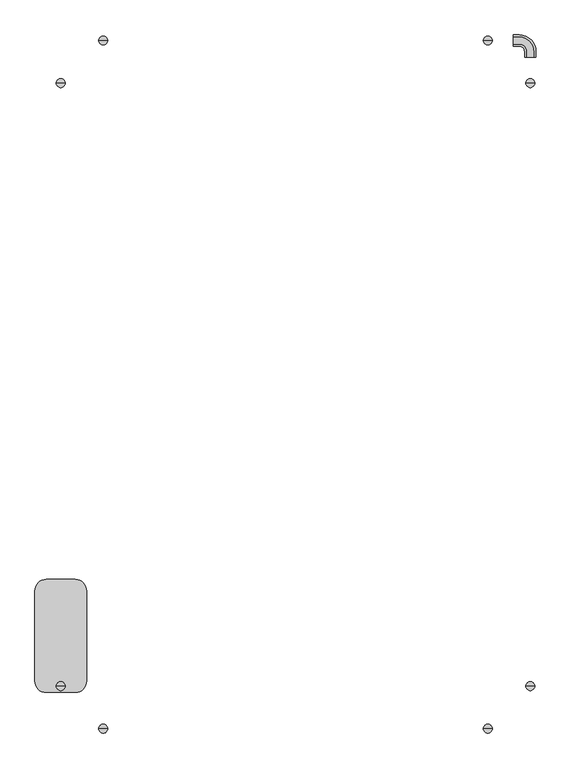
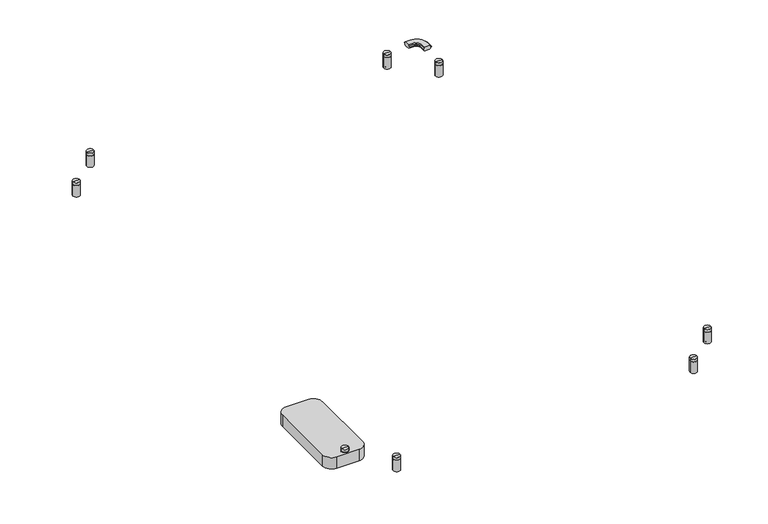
"""IFC4 building model written with IfcOpenShell, lengths in millimetres: light fixture geometry, ARTEMIDE-AoL-StandAlone-SquareRectangular_WallCeiling : StandALone_WallCeiling_SquareRectangular-1321x1911mm 11754lm 3000K."""

from ifc_helpers import new_model, si_unit, point, frame, frame_2d, origin, origin_with_axes, place, context, project, spatial, polyline, circle_curve, ellipse_curve, trimmed, segment, composite_curve, outline, extrude, source, transform, mapped, element, save
from ifc_brep_helpers import plane_surface, cylinder_surface, revolved_surface, advanced_brep


def light_fixture_8e3b3e56(model_context):
    return source(origin(), model_context, "Body", "SolidModel", [
        advanced_brep(
        [(152.0, 1746.0, 1.0), (128.0, 1746.0, 1.0), (134.5, 1746.0, 1.0), (145.5, 1746.0, 1.0), (152.0, 1746.0, 42.5), (128.0, 1746.0, 42.5), (149.5243756, 1746.0, 42.5), (130.4756244, 1746.0, 42.5), (149.5243756, 1746.0, 43.4995055), (130.4756244, 1746.0, 43.4995055), (152.0, 1746.0, 43.4995055), (128.0, 1746.0, 43.4995055), (152.0, 1746.0, 52.9579379), (128.0, 1746.0, 52.9579379), (140.0, 1746.0, 52.9579379), (145.5, 1746.0, 0.0), (134.5, 1746.0, 0.0), (140.0, 1746.0, 0.0)],
        [
            (0, 1, circle_curve(frame((140.0, 1746.0, 1.0), z_axis=(0.0, 0.0, -1.0), x_axis=(-1.0, 0.0, 0.0)), 12.0)),
            (1, 2),
            (2, 3, circle_curve(frame((140.0, 1746.0, 1.0), z_axis=(0.0, 0.0, 1.0), x_axis=(-1.0, 0.0, 0.0)), 5.5)),
            (3, 0),
            (1, 0, circle_curve(frame((140.0, 1746.0, 1.0), z_axis=(0.0, 0.0, -1.0), x_axis=(-1.0, 0.0, 0.0)), 12.0)),
            (3, 2, circle_curve(frame((140.0, 1746.0, 1.0), z_axis=(0.0, 0.0, 1.0), x_axis=(-1.0, 0.0, 0.0)), 5.5)),
            (4, 5, circle_curve(frame((140.0, 1746.0, 42.5), z_axis=(0.0, 0.0, -1.0), x_axis=(-1.0, 0.0, 0.0)), 12.0)),
            (5, 1),
            (0, 4),
            (5, 4, circle_curve(frame((140.0, 1746.0, 42.5), z_axis=(0.0, 0.0, -1.0), x_axis=(-1.0, 0.0, 0.0)), 12.0)),
            (6, 7, circle_curve(frame((140.0, 1746.0, 42.5), z_axis=(0.0, 0.0, -1.0), x_axis=(-1.0, 0.0, 0.0)), 9.5243756)),
            (7, 5),
            (4, 6),
            (7, 6, circle_curve(frame((140.0, 1746.0, 42.5), z_axis=(0.0, 0.0, -1.0), x_axis=(-1.0, 0.0, 0.0)), 9.5243756)),
            (8, 9, circle_curve(frame((140.0, 1746.0, 43.4995055), z_axis=(0.0, 0.0, -1.0), x_axis=(-1.0, 0.0, 0.0)), 9.5243756)),
            (9, 7),
            (6, 8),
            (9, 8, circle_curve(frame((140.0, 1746.0, 43.4995055), z_axis=(0.0, 0.0, -1.0), x_axis=(-1.0, 0.0, 0.0)), 9.5243756)),
            (10, 11, circle_curve(frame((140.0, 1746.0, 43.4995055), z_axis=(0.0, 0.0, -1.0), x_axis=(-1.0, 0.0, 0.0)), 12.0)),
            (11, 9),
            (8, 10),
            (11, 10, circle_curve(frame((140.0, 1746.0, 43.4995055), z_axis=(0.0, 0.0, -1.0), x_axis=(-1.0, 0.0, 0.0)), 12.0)),
            (12, 13, circle_curve(frame((140.0, 1746.0, 52.9579379), z_axis=(0.0, 0.0, -1.0), x_axis=(-1.0, 0.0, 0.0)), 12.0)),
            (13, 11),
            (10, 12),
            (13, 12, circle_curve(frame((140.0, 1746.0, 52.9579379), z_axis=(0.0, 0.0, -1.0), x_axis=(-1.0, 0.0, 0.0)), 12.0)),
            (14, 13),
            (12, 14),
            (15, 16, circle_curve(frame((140.0, 1746.0, 0.0), z_axis=(0.0, 0.0, -1.0), x_axis=(-1.0, 0.0, 0.0)), 5.5)),
            (16, 17),
            (17, 15),
            (16, 15, circle_curve(frame((140.0, 1746.0, 0.0), z_axis=(0.0, 0.0, -1.0), x_axis=(-1.0, 0.0, 0.0)), 5.5)),
            (2, 16),
            (15, 3),
        ],
        [
            plane_surface(frame((140.0, 1746.0, 1.0), z_axis=(0.0, 0.0, -1.0), x_axis=(-1.0, 0.0, 0.0))),
            cylinder_surface(frame((140.0, 1746.0, -58.83358), z_axis=(0.0, 0.0, 1.0), x_axis=(-1.0, 0.0, 0.0)), 12.0),
            plane_surface(frame((140.0, 1746.0, 42.5), z_axis=(0.0, 0.0, 1.0), x_axis=(-1.0, 0.0, 0.0))),
            cylinder_surface(frame((140.0, 1746.0, -58.83358), z_axis=(0.0, 0.0, 1.0), x_axis=(-1.0, 0.0, 0.0)), 9.5243756),
            plane_surface(frame((140.0, 1746.0, 43.4995055), z_axis=(0.0, 0.0, -1.0), x_axis=(-1.0, 0.0, 0.0))),
            plane_surface(frame((140.0, 1746.0, 52.9579379), z_axis=(0.0, 0.0, 1.0), x_axis=(-1.0, 0.0, 0.0))),
            plane_surface(frame((140.0, 1746.0, 0.0), z_axis=(0.0, 0.0, -1.0), x_axis=(-1.0, 0.0, 0.0))),
            cylinder_surface(frame((140.0, 1746.0, -58.83358), z_axis=(0.0, 0.0, 1.0), x_axis=(-1.0, 0.0, 0.0)), 5.5),
        ],
        [
            (0, [[1, 2, 3, 4]]),
            (0, [[5, -4, 6, -2]]),
            (1, [[7, 8, -1, 9]]),
            (1, [[10, -9, -5, -8]]),
            (2, [[11, 12, -7, 13]]),
            (2, [[14, -13, -10, -12]]),
            (3, [[15, 16, -11, 17]]),
            (3, [[18, -17, -14, -16]]),
            (4, [[19, 20, -15, 21]]),
            (4, [[22, -21, -18, -20]]),
            (1, [[23, 24, -19, 25]]),
            (1, [[26, -25, -22, -24]]),
            (5, [[27, -23, 28]]),
            (5, [[-28, -26, -27]]),
            (6, [[29, 30, 31]]),
            (6, [[32, -31, -30]]),
            (7, [[-3, 33, -29, 34]]),
            (7, [[-6, -34, -32, -33]]),
        ],
    ),
        advanced_brep(
        [(152.0, -115.0, 1.0), (128.0, -115.0, 1.0), (134.5, -115.0, 1.0), (145.5, -115.0, 1.0), (152.0, -115.0, 42.5), (128.0, -115.0, 42.5), (149.5243756, -115.0, 42.5), (130.4756244, -115.0, 42.5), (149.5243756, -115.0, 43.4995055), (130.4756244, -115.0, 43.4995055), (152.0, -115.0, 43.4995055), (128.0, -115.0, 43.4995055), (152.0, -115.0, 52.9579379), (128.0, -115.0, 52.9579379), (140.0, -115.0, 52.9579379), (145.5, -115.0, 0.0), (134.5, -115.0, 0.0), (140.0, -115.0, 0.0)],
        [
            (0, 1, circle_curve(frame((140.0, -115.0, 1.0), z_axis=(0.0, 0.0, -1.0), x_axis=(-1.0, 0.0, 0.0)), 12.0)),
            (1, 2),
            (2, 3, circle_curve(frame((140.0, -115.0, 1.0), z_axis=(0.0, 0.0, 1.0), x_axis=(-1.0, 0.0, 0.0)), 5.5)),
            (3, 0),
            (1, 0, circle_curve(frame((140.0, -115.0, 1.0), z_axis=(0.0, 0.0, -1.0), x_axis=(-1.0, 0.0, 0.0)), 12.0)),
            (3, 2, circle_curve(frame((140.0, -115.0, 1.0), z_axis=(0.0, 0.0, 1.0), x_axis=(-1.0, 0.0, 0.0)), 5.5)),
            (4, 5, circle_curve(frame((140.0, -115.0, 42.5), z_axis=(0.0, 0.0, -1.0), x_axis=(-1.0, 0.0, 0.0)), 12.0)),
            (5, 1),
            (0, 4),
            (5, 4, circle_curve(frame((140.0, -115.0, 42.5), z_axis=(0.0, 0.0, -1.0), x_axis=(-1.0, 0.0, 0.0)), 12.0)),
            (6, 7, circle_curve(frame((140.0, -115.0, 42.5), z_axis=(0.0, 0.0, -1.0), x_axis=(-1.0, 0.0, 0.0)), 9.5243756)),
            (7, 5),
            (4, 6),
            (7, 6, circle_curve(frame((140.0, -115.0, 42.5), z_axis=(0.0, 0.0, -1.0), x_axis=(-1.0, 0.0, 0.0)), 9.5243756)),
            (8, 9, circle_curve(frame((140.0, -115.0, 43.4995055), z_axis=(0.0, 0.0, -1.0), x_axis=(-1.0, 0.0, 0.0)), 9.5243756)),
            (9, 7),
            (6, 8),
            (9, 8, circle_curve(frame((140.0, -115.0, 43.4995055), z_axis=(0.0, 0.0, -1.0), x_axis=(-1.0, 0.0, 0.0)), 9.5243756)),
            (10, 11, circle_curve(frame((140.0, -115.0, 43.4995055), z_axis=(0.0, 0.0, -1.0), x_axis=(-1.0, 0.0, 0.0)), 12.0)),
            (11, 9),
            (8, 10),
            (11, 10, circle_curve(frame((140.0, -115.0, 43.4995055), z_axis=(0.0, 0.0, -1.0), x_axis=(-1.0, 0.0, 0.0)), 12.0)),
            (12, 13, circle_curve(frame((140.0, -115.0, 52.9579379), z_axis=(0.0, 0.0, -1.0), x_axis=(-1.0, 0.0, 0.0)), 12.0)),
            (13, 11),
            (10, 12),
            (13, 12, circle_curve(frame((140.0, -115.0, 52.9579379), z_axis=(0.0, 0.0, -1.0), x_axis=(-1.0, 0.0, 0.0)), 12.0)),
            (14, 13),
            (12, 14),
            (15, 16, circle_curve(frame((140.0, -115.0, 0.0), z_axis=(0.0, 0.0, -1.0), x_axis=(-1.0, 0.0, 0.0)), 5.5)),
            (16, 17),
            (17, 15),
            (16, 15, circle_curve(frame((140.0, -115.0, 0.0), z_axis=(0.0, 0.0, -1.0), x_axis=(-1.0, 0.0, 0.0)), 5.5)),
            (2, 16),
            (15, 3),
        ],
        [
            plane_surface(frame((140.0, -115.0, 1.0), z_axis=(0.0, 0.0, -1.0), x_axis=(-1.0, 0.0, 0.0))),
            cylinder_surface(frame((140.0, -115.0, -58.83358), z_axis=(0.0, 0.0, 1.0), x_axis=(-1.0, 0.0, 0.0)), 12.0),
            plane_surface(frame((140.0, -115.0, 42.5), z_axis=(0.0, 0.0, 1.0), x_axis=(-1.0, 0.0, 0.0))),
            cylinder_surface(frame((140.0, -115.0, -58.83358), z_axis=(0.0, 0.0, 1.0), x_axis=(-1.0, 0.0, 0.0)), 9.5243756),
            plane_surface(frame((140.0, -115.0, 43.4995055), z_axis=(0.0, 0.0, -1.0), x_axis=(-1.0, 0.0, 0.0))),
            plane_surface(frame((140.0, -115.0, 52.9579379), z_axis=(0.0, 0.0, 1.0), x_axis=(-1.0, 0.0, 0.0))),
            plane_surface(frame((140.0, -115.0, 0.0), z_axis=(0.0, 0.0, -1.0), x_axis=(-1.0, 0.0, 0.0))),
            cylinder_surface(frame((140.0, -115.0, -58.83358), z_axis=(0.0, 0.0, 1.0), x_axis=(-1.0, 0.0, 0.0)), 5.5),
        ],
        [
            (0, [[1, 2, 3, 4]]),
            (0, [[5, -4, 6, -2]]),
            (1, [[7, 8, -1, 9]]),
            (1, [[10, -9, -5, -8]]),
            (2, [[11, 12, -7, 13]]),
            (2, [[14, -13, -10, -12]]),
            (3, [[15, 16, -11, 17]]),
            (3, [[18, -17, -14, -16]]),
            (4, [[19, 20, -15, 21]]),
            (4, [[22, -21, -18, -20]]),
            (1, [[23, 24, -19, 25]]),
            (1, [[26, -25, -22, -24]]),
            (5, [[27, -23, 28]]),
            (5, [[-28, -26, -27]]),
            (6, [[29, 30, 31]]),
            (6, [[32, -31, -30]]),
            (7, [[-3, 33, -29, 34]]),
            (7, [[-6, -34, -32, -33]]),
        ],
    ),
        advanced_brep(
        [(1193.0, 1746.0, 1.0), (1169.0, 1746.0, 1.0), (1175.5, 1746.0, 1.0), (1186.5, 1746.0, 1.0), (1193.0, 1746.0, 42.5), (1169.0, 1746.0, 42.5), (1190.5243756, 1746.0, 42.5), (1171.4756244, 1746.0, 42.5), (1190.5243756, 1746.0, 43.4995055), (1171.4756244, 1746.0, 43.4995055), (1193.0, 1746.0, 43.4995055), (1169.0, 1746.0, 43.4995055), (1193.0, 1746.0, 52.9579379), (1169.0, 1746.0, 52.9579379), (1181.0, 1746.0, 52.9579379), (1186.5, 1746.0, 0.0), (1175.5, 1746.0, 0.0), (1181.0, 1746.0, 0.0)],
        [
            (0, 1, circle_curve(frame((1181.0, 1746.0, 1.0), z_axis=(0.0, 0.0, -1.0), x_axis=(-1.0, 0.0, 0.0)), 12.0)),
            (1, 2),
            (2, 3, circle_curve(frame((1181.0, 1746.0, 1.0), z_axis=(0.0, 0.0, 1.0), x_axis=(-1.0, 0.0, 0.0)), 5.5)),
            (3, 0),
            (1, 0, circle_curve(frame((1181.0, 1746.0, 1.0), z_axis=(0.0, 0.0, -1.0), x_axis=(-1.0, 0.0, 0.0)), 12.0)),
            (3, 2, circle_curve(frame((1181.0, 1746.0, 1.0), z_axis=(0.0, 0.0, 1.0), x_axis=(-1.0, 0.0, 0.0)), 5.5)),
            (4, 5, circle_curve(frame((1181.0, 1746.0, 42.5), z_axis=(0.0, 0.0, -1.0), x_axis=(-1.0, 0.0, 0.0)), 12.0)),
            (5, 1),
            (0, 4),
            (5, 4, circle_curve(frame((1181.0, 1746.0, 42.5), z_axis=(0.0, 0.0, -1.0), x_axis=(-1.0, 0.0, 0.0)), 12.0)),
            (6, 7, circle_curve(frame((1181.0, 1746.0, 42.5), z_axis=(0.0, 0.0, -1.0), x_axis=(-1.0, 0.0, 0.0)), 9.5243756)),
            (7, 5),
            (4, 6),
            (7, 6, circle_curve(frame((1181.0, 1746.0, 42.5), z_axis=(0.0, 0.0, -1.0), x_axis=(-1.0, 0.0, 0.0)), 9.5243756)),
            (8, 9, circle_curve(frame((1181.0, 1746.0, 43.4995055), z_axis=(0.0, 0.0, -1.0), x_axis=(-1.0, 0.0, 0.0)), 9.5243756)),
            (9, 7),
            (6, 8),
            (9, 8, circle_curve(frame((1181.0, 1746.0, 43.4995055), z_axis=(0.0, 0.0, -1.0), x_axis=(-1.0, 0.0, 0.0)), 9.5243756)),
            (10, 11, circle_curve(frame((1181.0, 1746.0, 43.4995055), z_axis=(0.0, 0.0, -1.0), x_axis=(-1.0, 0.0, 0.0)), 12.0)),
            (11, 9),
            (8, 10),
            (11, 10, circle_curve(frame((1181.0, 1746.0, 43.4995055), z_axis=(0.0, 0.0, -1.0), x_axis=(-1.0, 0.0, 0.0)), 12.0)),
            (12, 13, circle_curve(frame((1181.0, 1746.0, 52.9579379), z_axis=(0.0, 0.0, -1.0), x_axis=(-1.0, 0.0, 0.0)), 12.0)),
            (13, 11),
            (10, 12),
            (13, 12, circle_curve(frame((1181.0, 1746.0, 52.9579379), z_axis=(0.0, 0.0, -1.0), x_axis=(-1.0, 0.0, 0.0)), 12.0)),
            (14, 13),
            (12, 14),
            (15, 16, circle_curve(frame((1181.0, 1746.0, 0.0), z_axis=(0.0, 0.0, -1.0), x_axis=(-1.0, 0.0, 0.0)), 5.5)),
            (16, 17),
            (17, 15),
            (16, 15, circle_curve(frame((1181.0, 1746.0, 0.0), z_axis=(0.0, 0.0, -1.0), x_axis=(-1.0, 0.0, 0.0)), 5.5)),
            (2, 16),
            (15, 3),
        ],
        [
            plane_surface(frame((1181.0, 1746.0, 1.0), z_axis=(0.0, 0.0, -1.0), x_axis=(-1.0, 0.0, 0.0))),
            cylinder_surface(frame((1181.0, 1746.0, -58.83358), z_axis=(0.0, 0.0, 1.0), x_axis=(-1.0, 0.0, 0.0)), 12.0),
            plane_surface(frame((1181.0, 1746.0, 42.5), z_axis=(0.0, 0.0, 1.0), x_axis=(-1.0, 0.0, 0.0))),
            cylinder_surface(frame((1181.0, 1746.0, -58.83358), z_axis=(0.0, 0.0, 1.0), x_axis=(-1.0, 0.0, 0.0)), 9.5243756),
            plane_surface(frame((1181.0, 1746.0, 43.4995055), z_axis=(0.0, 0.0, -1.0), x_axis=(-1.0, 0.0, 0.0))),
            plane_surface(frame((1181.0, 1746.0, 52.9579379), z_axis=(0.0, 0.0, 1.0), x_axis=(-1.0, 0.0, 0.0))),
            plane_surface(frame((1181.0, 1746.0, 0.0), z_axis=(0.0, 0.0, -1.0), x_axis=(-1.0, 0.0, 0.0))),
            cylinder_surface(frame((1181.0, 1746.0, -58.83358), z_axis=(0.0, 0.0, 1.0), x_axis=(-1.0, 0.0, 0.0)), 5.5),
        ],
        [
            (0, [[1, 2, 3, 4]]),
            (0, [[5, -4, 6, -2]]),
            (1, [[7, 8, -1, 9]]),
            (1, [[10, -9, -5, -8]]),
            (2, [[11, 12, -7, 13]]),
            (2, [[14, -13, -10, -12]]),
            (3, [[15, 16, -11, 17]]),
            (3, [[18, -17, -14, -16]]),
            (4, [[19, 20, -15, 21]]),
            (4, [[22, -21, -18, -20]]),
            (1, [[23, 24, -19, 25]]),
            (1, [[26, -25, -22, -24]]),
            (5, [[27, -23, 28]]),
            (5, [[-28, -26, -27]]),
            (6, [[29, 30, 31]]),
            (6, [[32, -31, -30]]),
            (7, [[-3, 33, -29, 34]]),
            (7, [[-6, -34, -32, -33]]),
        ],
    ),
        advanced_brep(
        [(1193.0, -115.0, 1.0), (1169.0, -115.0, 1.0), (1175.5, -115.0, 1.0), (1186.5, -115.0, 1.0), (1193.0, -115.0, 42.5), (1169.0, -115.0, 42.5), (1190.5243756, -115.0, 42.5), (1171.4756244, -115.0, 42.5), (1190.5243756, -115.0, 43.4995055), (1171.4756244, -115.0, 43.4995055), (1193.0, -115.0, 43.4995055), (1169.0, -115.0, 43.4995055), (1193.0, -115.0, 52.9579379), (1169.0, -115.0, 52.9579379), (1181.0, -115.0, 52.9579379), (1186.5, -115.0, 0.0), (1175.5, -115.0, 0.0), (1181.0, -115.0, 0.0)],
        [
            (0, 1, circle_curve(frame((1181.0, -115.0, 1.0), z_axis=(0.0, 0.0, -1.0), x_axis=(-1.0, 0.0, 0.0)), 12.0)),
            (1, 2),
            (2, 3, circle_curve(frame((1181.0, -115.0, 1.0), z_axis=(0.0, 0.0, 1.0), x_axis=(-1.0, 0.0, 0.0)), 5.5)),
            (3, 0),
            (1, 0, circle_curve(frame((1181.0, -115.0, 1.0), z_axis=(0.0, 0.0, -1.0), x_axis=(-1.0, 0.0, 0.0)), 12.0)),
            (3, 2, circle_curve(frame((1181.0, -115.0, 1.0), z_axis=(0.0, 0.0, 1.0), x_axis=(-1.0, 0.0, 0.0)), 5.5)),
            (4, 5, circle_curve(frame((1181.0, -115.0, 42.5), z_axis=(0.0, 0.0, -1.0), x_axis=(-1.0, 0.0, 0.0)), 12.0)),
            (5, 1),
            (0, 4),
            (5, 4, circle_curve(frame((1181.0, -115.0, 42.5), z_axis=(0.0, 0.0, -1.0), x_axis=(-1.0, 0.0, 0.0)), 12.0)),
            (6, 7, circle_curve(frame((1181.0, -115.0, 42.5), z_axis=(0.0, 0.0, -1.0), x_axis=(-1.0, 0.0, 0.0)), 9.5243756)),
            (7, 5),
            (4, 6),
            (7, 6, circle_curve(frame((1181.0, -115.0, 42.5), z_axis=(0.0, 0.0, -1.0), x_axis=(-1.0, 0.0, 0.0)), 9.5243756)),
            (8, 9, circle_curve(frame((1181.0, -115.0, 43.4995055), z_axis=(0.0, 0.0, -1.0), x_axis=(-1.0, 0.0, 0.0)), 9.5243756)),
            (9, 7),
            (6, 8),
            (9, 8, circle_curve(frame((1181.0, -115.0, 43.4995055), z_axis=(0.0, 0.0, -1.0), x_axis=(-1.0, 0.0, 0.0)), 9.5243756)),
            (10, 11, circle_curve(frame((1181.0, -115.0, 43.4995055), z_axis=(0.0, 0.0, -1.0), x_axis=(-1.0, 0.0, 0.0)), 12.0)),
            (11, 9),
            (8, 10),
            (11, 10, circle_curve(frame((1181.0, -115.0, 43.4995055), z_axis=(0.0, 0.0, -1.0), x_axis=(-1.0, 0.0, 0.0)), 12.0)),
            (12, 13, circle_curve(frame((1181.0, -115.0, 52.9579379), z_axis=(0.0, 0.0, -1.0), x_axis=(-1.0, 0.0, 0.0)), 12.0)),
            (13, 11),
            (10, 12),
            (13, 12, circle_curve(frame((1181.0, -115.0, 52.9579379), z_axis=(0.0, 0.0, -1.0), x_axis=(-1.0, 0.0, 0.0)), 12.0)),
            (14, 13),
            (12, 14),
            (15, 16, circle_curve(frame((1181.0, -115.0, 0.0), z_axis=(0.0, 0.0, -1.0), x_axis=(-1.0, 0.0, 0.0)), 5.5)),
            (16, 17),
            (17, 15),
            (16, 15, circle_curve(frame((1181.0, -115.0, 0.0), z_axis=(0.0, 0.0, -1.0), x_axis=(-1.0, 0.0, 0.0)), 5.5)),
            (2, 16),
            (15, 3),
        ],
        [
            plane_surface(frame((1181.0, -115.0, 1.0), z_axis=(0.0, 0.0, -1.0), x_axis=(-1.0, 0.0, 0.0))),
            cylinder_surface(frame((1181.0, -115.0, -58.83358), z_axis=(0.0, 0.0, 1.0), x_axis=(-1.0, 0.0, 0.0)), 12.0),
            plane_surface(frame((1181.0, -115.0, 42.5), z_axis=(0.0, 0.0, 1.0), x_axis=(-1.0, 0.0, 0.0))),
            cylinder_surface(frame((1181.0, -115.0, -58.83358), z_axis=(0.0, 0.0, 1.0), x_axis=(-1.0, 0.0, 0.0)), 9.5243756),
            plane_surface(frame((1181.0, -115.0, 43.4995055), z_axis=(0.0, 0.0, -1.0), x_axis=(-1.0, 0.0, 0.0))),
            plane_surface(frame((1181.0, -115.0, 52.9579379), z_axis=(0.0, 0.0, 1.0), x_axis=(-1.0, 0.0, 0.0))),
            plane_surface(frame((1181.0, -115.0, 0.0), z_axis=(0.0, 0.0, -1.0), x_axis=(-1.0, 0.0, 0.0))),
            cylinder_surface(frame((1181.0, -115.0, -58.83358), z_axis=(0.0, 0.0, 1.0), x_axis=(-1.0, 0.0, 0.0)), 5.5),
        ],
        [
            (0, [[1, 2, 3, 4]]),
            (0, [[5, -4, 6, -2]]),
            (1, [[7, 8, -1, 9]]),
            (1, [[10, -9, -5, -8]]),
            (2, [[11, 12, -7, 13]]),
            (2, [[14, -13, -10, -12]]),
            (3, [[15, 16, -11, 17]]),
            (3, [[18, -17, -14, -16]]),
            (4, [[19, 20, -15, 21]]),
            (4, [[22, -21, -18, -20]]),
            (1, [[23, 24, -19, 25]]),
            (1, [[26, -25, -22, -24]]),
            (5, [[27, -23, 28]]),
            (5, [[-28, -26, -27]]),
            (6, [[29, 30, 31]]),
            (6, [[32, -31, -30]]),
            (7, [[-3, 33, -29, 34]]),
            (7, [[-6, -34, -32, -33]]),
        ],
    ),
        advanced_brep(
        [(37.0, 1631.0, 1.0), (13.0, 1631.0, 1.0), (19.5, 1631.0, 1.0), (30.5, 1631.0, 1.0), (37.0, 1631.0, 42.5), (13.0, 1631.0, 42.5), (34.5243756, 1631.0, 42.5), (15.4756244, 1631.0, 42.5), (34.5243756, 1631.0, 43.4995055), (15.4756244, 1631.0, 43.4995055), (37.0, 1631.0, 43.4995055), (13.0, 1631.0, 43.4995055), (37.0, 1631.0, 52.9579379), (13.0, 1631.0, 52.9579379), (25.0, 1631.0, 52.9579379), (30.5, 1631.0, 0.0), (19.5, 1631.0, 0.0), (25.0, 1631.0, 0.0)],
        [
            (0, 1, circle_curve(frame((25.0, 1631.0, 1.0), z_axis=(0.0, 0.0, -1.0), x_axis=(-1.0, 0.0, 0.0)), 12.0)),
            (1, 2),
            (2, 3, circle_curve(frame((25.0, 1631.0, 1.0), z_axis=(0.0, 0.0, 1.0), x_axis=(-1.0, 0.0, 0.0)), 5.5)),
            (3, 0),
            (1, 0, circle_curve(frame((25.0, 1631.0, 1.0), z_axis=(0.0, 0.0, -1.0), x_axis=(-1.0, 0.0, 0.0)), 12.0)),
            (3, 2, circle_curve(frame((25.0, 1631.0, 1.0), z_axis=(0.0, 0.0, 1.0), x_axis=(-1.0, 0.0, 0.0)), 5.5)),
            (4, 5, circle_curve(frame((25.0, 1631.0, 42.5), z_axis=(0.0, 0.0, -1.0), x_axis=(-1.0, 0.0, 0.0)), 12.0)),
            (5, 1),
            (0, 4),
            (5, 4, circle_curve(frame((25.0, 1631.0, 42.5), z_axis=(0.0, 0.0, -1.0), x_axis=(-1.0, 0.0, 0.0)), 12.0)),
            (6, 7, circle_curve(frame((25.0, 1631.0, 42.5), z_axis=(0.0, 0.0, -1.0), x_axis=(-1.0, 0.0, 0.0)), 9.5243756)),
            (7, 5),
            (4, 6),
            (7, 6, circle_curve(frame((25.0, 1631.0, 42.5), z_axis=(0.0, 0.0, -1.0), x_axis=(-1.0, 0.0, 0.0)), 9.5243756)),
            (8, 9, circle_curve(frame((25.0, 1631.0, 43.4995055), z_axis=(0.0, 0.0, -1.0), x_axis=(-1.0, 0.0, 0.0)), 9.5243756)),
            (9, 7),
            (6, 8),
            (9, 8, circle_curve(frame((25.0, 1631.0, 43.4995055), z_axis=(0.0, 0.0, -1.0), x_axis=(-1.0, 0.0, 0.0)), 9.5243756)),
            (10, 11, circle_curve(frame((25.0, 1631.0, 43.4995055), z_axis=(0.0, 0.0, -1.0), x_axis=(-1.0, 0.0, 0.0)), 12.0)),
            (11, 9),
            (8, 10),
            (11, 10, circle_curve(frame((25.0, 1631.0, 43.4995055), z_axis=(0.0, 0.0, -1.0), x_axis=(-1.0, 0.0, 0.0)), 12.0)),
            (12, 13, circle_curve(frame((25.0, 1631.0, 52.9579379), z_axis=(0.0, 0.0, -1.0), x_axis=(-1.0, 0.0, 0.0)), 12.0)),
            (13, 11),
            (10, 12),
            (13, 12, circle_curve(frame((25.0, 1631.0, 52.9579379), z_axis=(0.0, 0.0, -1.0), x_axis=(-1.0, 0.0, 0.0)), 12.0)),
            (14, 13),
            (12, 14),
            (15, 16, circle_curve(frame((25.0, 1631.0, 0.0), z_axis=(0.0, 0.0, -1.0), x_axis=(-1.0, 0.0, 0.0)), 5.5)),
            (16, 17),
            (17, 15),
            (16, 15, circle_curve(frame((25.0, 1631.0, 0.0), z_axis=(0.0, 0.0, -1.0), x_axis=(-1.0, 0.0, 0.0)), 5.5)),
            (2, 16),
            (15, 3),
        ],
        [
            plane_surface(frame((25.0, 1631.0, 1.0), z_axis=(0.0, 0.0, -1.0), x_axis=(-1.0, 0.0, 0.0))),
            cylinder_surface(frame((25.0, 1631.0, -58.83358), z_axis=(0.0, 0.0, 1.0), x_axis=(-1.0, 0.0, 0.0)), 12.0),
            plane_surface(frame((25.0, 1631.0, 42.5), z_axis=(0.0, 0.0, 1.0), x_axis=(-1.0, 0.0, 0.0))),
            cylinder_surface(frame((25.0, 1631.0, -58.83358), z_axis=(0.0, 0.0, 1.0), x_axis=(-1.0, 0.0, 0.0)), 9.5243756),
            plane_surface(frame((25.0, 1631.0, 43.4995055), z_axis=(0.0, 0.0, -1.0), x_axis=(-1.0, 0.0, 0.0))),
            plane_surface(frame((25.0, 1631.0, 52.9579379), z_axis=(0.0, 0.0, 1.0), x_axis=(-1.0, 0.0, 0.0))),
            plane_surface(frame((25.0, 1631.0, 0.0), z_axis=(0.0, 0.0, -1.0), x_axis=(-1.0, 0.0, 0.0))),
            cylinder_surface(frame((25.0, 1631.0, -58.83358), z_axis=(0.0, 0.0, 1.0), x_axis=(-1.0, 0.0, 0.0)), 5.5),
        ],
        [
            (0, [[1, 2, 3, 4]]),
            (0, [[5, -4, 6, -2]]),
            (1, [[7, 8, -1, 9]]),
            (1, [[10, -9, -5, -8]]),
            (2, [[11, 12, -7, 13]]),
            (2, [[14, -13, -10, -12]]),
            (3, [[15, 16, -11, 17]]),
            (3, [[18, -17, -14, -16]]),
            (4, [[19, 20, -15, 21]]),
            (4, [[22, -21, -18, -20]]),
            (1, [[23, 24, -19, 25]]),
            (1, [[26, -25, -22, -24]]),
            (5, [[27, -23, 28]]),
            (5, [[-28, -26, -27]]),
            (6, [[29, 30, 31]]),
            (6, [[32, -31, -30]]),
            (7, [[-3, 33, -29, 34]]),
            (7, [[-6, -34, -32, -33]]),
        ],
    ),
        advanced_brep(
        [(1308.0, 1631.0, 1.0), (1284.0, 1631.0, 1.0), (1290.5, 1631.0, 1.0), (1301.5, 1631.0, 1.0), (1308.0, 1631.0, 42.5), (1284.0, 1631.0, 42.5), (1305.5243756, 1631.0, 42.5), (1286.4756244, 1631.0, 42.5), (1305.5243756, 1631.0, 43.4995055), (1286.4756244, 1631.0, 43.4995055), (1308.0, 1631.0, 43.4995055), (1284.0, 1631.0, 43.4995055), (1308.0, 1631.0, 52.9579379), (1284.0, 1631.0, 52.9579379), (1296.0, 1631.0, 52.9579379), (1301.5, 1631.0, 0.0), (1290.5, 1631.0, 0.0), (1296.0, 1631.0, 0.0)],
        [
            (0, 1, circle_curve(frame((1296.0, 1631.0, 1.0), z_axis=(0.0, 0.0, -1.0), x_axis=(-1.0, 0.0, 0.0)), 12.0)),
            (1, 2),
            (2, 3, circle_curve(frame((1296.0, 1631.0, 1.0), z_axis=(0.0, 0.0, 1.0), x_axis=(-1.0, 0.0, 0.0)), 5.5)),
            (3, 0),
            (1, 0, circle_curve(frame((1296.0, 1631.0, 1.0), z_axis=(0.0, 0.0, -1.0), x_axis=(-1.0, 0.0, 0.0)), 12.0)),
            (3, 2, circle_curve(frame((1296.0, 1631.0, 1.0), z_axis=(0.0, 0.0, 1.0), x_axis=(-1.0, 0.0, 0.0)), 5.5)),
            (4, 5, circle_curve(frame((1296.0, 1631.0, 42.5), z_axis=(0.0, 0.0, -1.0), x_axis=(-1.0, 0.0, 0.0)), 12.0)),
            (5, 1),
            (0, 4),
            (5, 4, circle_curve(frame((1296.0, 1631.0, 42.5), z_axis=(0.0, 0.0, -1.0), x_axis=(-1.0, 0.0, 0.0)), 12.0)),
            (6, 7, circle_curve(frame((1296.0, 1631.0, 42.5), z_axis=(0.0, 0.0, -1.0), x_axis=(-1.0, 0.0, 0.0)), 9.5243756)),
            (7, 5),
            (4, 6),
            (7, 6, circle_curve(frame((1296.0, 1631.0, 42.5), z_axis=(0.0, 0.0, -1.0), x_axis=(-1.0, 0.0, 0.0)), 9.5243756)),
            (8, 9, circle_curve(frame((1296.0, 1631.0, 43.4995055), z_axis=(0.0, 0.0, -1.0), x_axis=(-1.0, 0.0, 0.0)), 9.5243756)),
            (9, 7),
            (6, 8),
            (9, 8, circle_curve(frame((1296.0, 1631.0, 43.4995055), z_axis=(0.0, 0.0, -1.0), x_axis=(-1.0, 0.0, 0.0)), 9.5243756)),
            (10, 11, circle_curve(frame((1296.0, 1631.0, 43.4995055), z_axis=(0.0, 0.0, -1.0), x_axis=(-1.0, 0.0, 0.0)), 12.0)),
            (11, 9),
            (8, 10),
            (11, 10, circle_curve(frame((1296.0, 1631.0, 43.4995055), z_axis=(0.0, 0.0, -1.0), x_axis=(-1.0, 0.0, 0.0)), 12.0)),
            (12, 13, circle_curve(frame((1296.0, 1631.0, 52.9579379), z_axis=(0.0, 0.0, -1.0), x_axis=(-1.0, 0.0, 0.0)), 12.0)),
            (13, 11),
            (10, 12),
            (13, 12, circle_curve(frame((1296.0, 1631.0, 52.9579379), z_axis=(0.0, 0.0, -1.0), x_axis=(-1.0, 0.0, 0.0)), 12.0)),
            (14, 13),
            (12, 14),
            (15, 16, circle_curve(frame((1296.0, 1631.0, 0.0), z_axis=(0.0, 0.0, -1.0), x_axis=(-1.0, 0.0, 0.0)), 5.5)),
            (16, 17),
            (17, 15),
            (16, 15, circle_curve(frame((1296.0, 1631.0, 0.0), z_axis=(0.0, 0.0, -1.0), x_axis=(-1.0, 0.0, 0.0)), 5.5)),
            (2, 16),
            (15, 3),
        ],
        [
            plane_surface(frame((1296.0, 1631.0, 1.0), z_axis=(0.0, 0.0, -1.0), x_axis=(-1.0, 0.0, 0.0))),
            cylinder_surface(frame((1296.0, 1631.0, -58.83358), z_axis=(0.0, 0.0, 1.0), x_axis=(-1.0, 0.0, 0.0)), 12.0),
            plane_surface(frame((1296.0, 1631.0, 42.5), z_axis=(0.0, 0.0, 1.0), x_axis=(-1.0, 0.0, 0.0))),
            cylinder_surface(frame((1296.0, 1631.0, -58.83358), z_axis=(0.0, 0.0, 1.0), x_axis=(-1.0, 0.0, 0.0)), 9.5243756),
            plane_surface(frame((1296.0, 1631.0, 43.4995055), z_axis=(0.0, 0.0, -1.0), x_axis=(-1.0, 0.0, 0.0))),
            plane_surface(frame((1296.0, 1631.0, 52.9579379), z_axis=(0.0, 0.0, 1.0), x_axis=(-1.0, 0.0, 0.0))),
            plane_surface(frame((1296.0, 1631.0, 0.0), z_axis=(0.0, 0.0, -1.0), x_axis=(-1.0, 0.0, 0.0))),
            cylinder_surface(frame((1296.0, 1631.0, -58.83358), z_axis=(0.0, 0.0, 1.0), x_axis=(-1.0, 0.0, 0.0)), 5.5),
        ],
        [
            (0, [[1, 2, 3, 4]]),
            (0, [[5, -4, 6, -2]]),
            (1, [[7, 8, -1, 9]]),
            (1, [[10, -9, -5, -8]]),
            (2, [[11, 12, -7, 13]]),
            (2, [[14, -13, -10, -12]]),
            (3, [[15, 16, -11, 17]]),
            (3, [[18, -17, -14, -16]]),
            (4, [[19, 20, -15, 21]]),
            (4, [[22, -21, -18, -20]]),
            (1, [[23, 24, -19, 25]]),
            (1, [[26, -25, -22, -24]]),
            (5, [[27, -23, 28]]),
            (5, [[-28, -26, -27]]),
            (6, [[29, 30, 31]]),
            (6, [[32, -31, -30]]),
            (7, [[-3, 33, -29, 34]]),
            (7, [[-6, -34, -32, -33]]),
        ],
    ),
        advanced_brep(
        [(37.0, 0.0, 1.0), (13.0, 0.0, 1.0), (19.5, 0.0, 1.0), (30.5, 0.0, 1.0), (37.0, 0.0, 42.5), (13.0, 0.0, 42.5), (34.5243756, 0.0, 42.5), (15.4756244, 0.0, 42.5), (34.5243756, 0.0, 43.4995055), (15.4756244, 0.0, 43.4995055), (37.0, 0.0, 43.4995055), (13.0, 0.0, 43.4995055), (37.0, 0.0, 52.9579379), (13.0, 0.0, 52.9579379), (25.0, 0.0, 52.9579379), (30.5, 0.0, 0.0), (19.5, 0.0, 0.0), (25.0, 0.0, 0.0)],
        [
            (0, 1, circle_curve(frame((25.0, 0.0, 1.0), z_axis=(0.0, 0.0, -1.0), x_axis=(-1.0, 0.0, 0.0)), 12.0)),
            (1, 2),
            (2, 3, circle_curve(frame((25.0, 0.0, 1.0), z_axis=(0.0, 0.0, 1.0), x_axis=(-1.0, 0.0, 0.0)), 5.5)),
            (3, 0),
            (1, 0, circle_curve(frame((25.0, 0.0, 1.0), z_axis=(0.0, 0.0, -1.0), x_axis=(-1.0, 0.0, 0.0)), 12.0)),
            (3, 2, circle_curve(frame((25.0, 0.0, 1.0), z_axis=(0.0, 0.0, 1.0), x_axis=(-1.0, 0.0, 0.0)), 5.5)),
            (4, 5, circle_curve(frame((25.0, 0.0, 42.5), z_axis=(0.0, 0.0, -1.0), x_axis=(-1.0, 0.0, 0.0)), 12.0)),
            (5, 1),
            (0, 4),
            (5, 4, circle_curve(frame((25.0, 0.0, 42.5), z_axis=(0.0, 0.0, -1.0), x_axis=(-1.0, 0.0, 0.0)), 12.0)),
            (6, 7, circle_curve(frame((25.0, 0.0, 42.5), z_axis=(0.0, 0.0, -1.0), x_axis=(-1.0, 0.0, 0.0)), 9.5243756)),
            (7, 5),
            (4, 6),
            (7, 6, circle_curve(frame((25.0, 0.0, 42.5), z_axis=(0.0, 0.0, -1.0), x_axis=(-1.0, 0.0, 0.0)), 9.5243756)),
            (8, 9, circle_curve(frame((25.0, 0.0, 43.4995055), z_axis=(0.0, 0.0, -1.0), x_axis=(-1.0, 0.0, 0.0)), 9.5243756)),
            (9, 7),
            (6, 8),
            (9, 8, circle_curve(frame((25.0, 0.0, 43.4995055), z_axis=(0.0, 0.0, -1.0), x_axis=(-1.0, 0.0, 0.0)), 9.5243756)),
            (10, 11, circle_curve(frame((25.0, 0.0, 43.4995055), z_axis=(0.0, 0.0, -1.0), x_axis=(-1.0, 0.0, 0.0)), 12.0)),
            (11, 9),
            (8, 10),
            (11, 10, circle_curve(frame((25.0, 0.0, 43.4995055), z_axis=(0.0, 0.0, -1.0), x_axis=(-1.0, 0.0, 0.0)), 12.0)),
            (12, 13, circle_curve(frame((25.0, 0.0, 52.9579379), z_axis=(0.0, 0.0, -1.0), x_axis=(-1.0, 0.0, 0.0)), 12.0)),
            (13, 11),
            (10, 12),
            (13, 12, circle_curve(frame((25.0, 0.0, 52.9579379), z_axis=(0.0, 0.0, -1.0), x_axis=(-1.0, 0.0, 0.0)), 12.0)),
            (14, 13),
            (12, 14),
            (15, 16, circle_curve(frame((25.0, 0.0, 0.0), z_axis=(0.0, 0.0, -1.0), x_axis=(-1.0, 0.0, 0.0)), 5.5)),
            (16, 17),
            (17, 15),
            (16, 15, circle_curve(frame((25.0, 0.0, 0.0), z_axis=(0.0, 0.0, -1.0), x_axis=(-1.0, 0.0, 0.0)), 5.5)),
            (2, 16),
            (15, 3),
        ],
        [
            plane_surface(frame((25.0, 0.0, 1.0), z_axis=(0.0, 0.0, -1.0), x_axis=(-1.0, 0.0, 0.0))),
            cylinder_surface(frame((25.0, 0.0, -58.83358), z_axis=(0.0, 0.0, 1.0), x_axis=(-1.0, 0.0, 0.0)), 12.0),
            plane_surface(frame((25.0, 0.0, 42.5), z_axis=(0.0, 0.0, 1.0), x_axis=(-1.0, 0.0, 0.0))),
            cylinder_surface(frame((25.0, 0.0, -58.83358), z_axis=(0.0, 0.0, 1.0), x_axis=(-1.0, 0.0, 0.0)), 9.5243756),
            plane_surface(frame((25.0, 0.0, 43.4995055), z_axis=(0.0, 0.0, -1.0), x_axis=(-1.0, 0.0, 0.0))),
            plane_surface(frame((25.0, 0.0, 52.9579379), z_axis=(0.0, 0.0, 1.0), x_axis=(-1.0, 0.0, 0.0))),
            plane_surface(frame((25.0, 0.0, 0.0), z_axis=(0.0, 0.0, -1.0), x_axis=(-1.0, 0.0, 0.0))),
            cylinder_surface(frame((25.0, 0.0, -58.83358), z_axis=(0.0, 0.0, 1.0), x_axis=(-1.0, 0.0, 0.0)), 5.5),
        ],
        [
            (0, [[1, 2, 3, 4]]),
            (0, [[5, -4, 6, -2]]),
            (1, [[7, 8, -1, 9]]),
            (1, [[10, -9, -5, -8]]),
            (2, [[11, 12, -7, 13]]),
            (2, [[14, -13, -10, -12]]),
            (3, [[15, 16, -11, 17]]),
            (3, [[18, -17, -14, -16]]),
            (4, [[19, 20, -15, 21]]),
            (4, [[22, -21, -18, -20]]),
            (1, [[23, 24, -19, 25]]),
            (1, [[26, -25, -22, -24]]),
            (5, [[27, -23, 28]]),
            (5, [[-28, -26, -27]]),
            (6, [[29, 30, 31]]),
            (6, [[32, -31, -30]]),
            (7, [[-3, 33, -29, 34]]),
            (7, [[-6, -34, -32, -33]]),
        ],
    ),
        advanced_brep(
        [(1308.0, 0.0, 1.0), (1284.0, 0.0, 1.0), (1290.5, 0.0, 1.0), (1301.5, 0.0, 1.0), (1308.0, 0.0, 42.5), (1284.0, 0.0, 42.5), (1305.5243756, 0.0, 42.5), (1286.4756244, 0.0, 42.5), (1305.5243756, 0.0, 43.4995055), (1286.4756244, 0.0, 43.4995055), (1308.0, 0.0, 43.4995055), (1284.0, 0.0, 43.4995055), (1308.0, 0.0, 52.9579379), (1284.0, 0.0, 52.9579379), (1296.0, 0.0, 52.9579379), (1301.5, 0.0, 0.0), (1290.5, 0.0, 0.0), (1296.0, 0.0, 0.0)],
        [
            (0, 1, circle_curve(frame((1296.0, 0.0, 1.0), z_axis=(0.0, 0.0, -1.0), x_axis=(-1.0, 0.0, 0.0)), 12.0)),
            (1, 2),
            (2, 3, circle_curve(frame((1296.0, 0.0, 1.0), z_axis=(0.0, 0.0, 1.0), x_axis=(-1.0, 0.0, 0.0)), 5.5)),
            (3, 0),
            (1, 0, circle_curve(frame((1296.0, 0.0, 1.0), z_axis=(0.0, 0.0, -1.0), x_axis=(-1.0, 0.0, 0.0)), 12.0)),
            (3, 2, circle_curve(frame((1296.0, 0.0, 1.0), z_axis=(0.0, 0.0, 1.0), x_axis=(-1.0, 0.0, 0.0)), 5.5)),
            (4, 5, circle_curve(frame((1296.0, 0.0, 42.5), z_axis=(0.0, 0.0, -1.0), x_axis=(-1.0, 0.0, 0.0)), 12.0)),
            (5, 1),
            (0, 4),
            (5, 4, circle_curve(frame((1296.0, 0.0, 42.5), z_axis=(0.0, 0.0, -1.0), x_axis=(-1.0, 0.0, 0.0)), 12.0)),
            (6, 7, circle_curve(frame((1296.0, 0.0, 42.5), z_axis=(0.0, 0.0, -1.0), x_axis=(-1.0, 0.0, 0.0)), 9.5243756)),
            (7, 5),
            (4, 6),
            (7, 6, circle_curve(frame((1296.0, 0.0, 42.5), z_axis=(0.0, 0.0, -1.0), x_axis=(-1.0, 0.0, 0.0)), 9.5243756)),
            (8, 9, circle_curve(frame((1296.0, 0.0, 43.4995055), z_axis=(0.0, 0.0, -1.0), x_axis=(-1.0, 0.0, 0.0)), 9.5243756)),
            (9, 7),
            (6, 8),
            (9, 8, circle_curve(frame((1296.0, 0.0, 43.4995055), z_axis=(0.0, 0.0, -1.0), x_axis=(-1.0, 0.0, 0.0)), 9.5243756)),
            (10, 11, circle_curve(frame((1296.0, 0.0, 43.4995055), z_axis=(0.0, 0.0, -1.0), x_axis=(-1.0, 0.0, 0.0)), 12.0)),
            (11, 9),
            (8, 10),
            (11, 10, circle_curve(frame((1296.0, 0.0, 43.4995055), z_axis=(0.0, 0.0, -1.0), x_axis=(-1.0, 0.0, 0.0)), 12.0)),
            (12, 13, circle_curve(frame((1296.0, 0.0, 52.9579379), z_axis=(0.0, 0.0, -1.0), x_axis=(-1.0, 0.0, 0.0)), 12.0)),
            (13, 11),
            (10, 12),
            (13, 12, circle_curve(frame((1296.0, 0.0, 52.9579379), z_axis=(0.0, 0.0, -1.0), x_axis=(-1.0, 0.0, 0.0)), 12.0)),
            (14, 13),
            (12, 14),
            (15, 16, circle_curve(frame((1296.0, 0.0, 0.0), z_axis=(0.0, 0.0, -1.0), x_axis=(-1.0, 0.0, 0.0)), 5.5)),
            (16, 17),
            (17, 15),
            (16, 15, circle_curve(frame((1296.0, 0.0, 0.0), z_axis=(0.0, 0.0, -1.0), x_axis=(-1.0, 0.0, 0.0)), 5.5)),
            (2, 16),
            (15, 3),
        ],
        [
            plane_surface(frame((1296.0, 0.0, 1.0), z_axis=(0.0, 0.0, -1.0), x_axis=(-1.0, 0.0, 0.0))),
            cylinder_surface(frame((1296.0, 0.0, -58.83358), z_axis=(0.0, 0.0, 1.0), x_axis=(-1.0, 0.0, 0.0)), 12.0),
            plane_surface(frame((1296.0, 0.0, 42.5), z_axis=(0.0, 0.0, 1.0), x_axis=(-1.0, 0.0, 0.0))),
            cylinder_surface(frame((1296.0, 0.0, -58.83358), z_axis=(0.0, 0.0, 1.0), x_axis=(-1.0, 0.0, 0.0)), 9.5243756),
            plane_surface(frame((1296.0, 0.0, 43.4995055), z_axis=(0.0, 0.0, -1.0), x_axis=(-1.0, 0.0, 0.0))),
            plane_surface(frame((1296.0, 0.0, 52.9579379), z_axis=(0.0, 0.0, 1.0), x_axis=(-1.0, 0.0, 0.0))),
            plane_surface(frame((1296.0, 0.0, 0.0), z_axis=(0.0, 0.0, -1.0), x_axis=(-1.0, 0.0, 0.0))),
            cylinder_surface(frame((1296.0, 0.0, -58.83358), z_axis=(0.0, 0.0, 1.0), x_axis=(-1.0, 0.0, 0.0)), 5.5),
        ],
        [
            (0, [[1, 2, 3, 4]]),
            (0, [[5, -4, 6, -2]]),
            (1, [[7, 8, -1, 9]]),
            (1, [[10, -9, -5, -8]]),
            (2, [[11, 12, -7, 13]]),
            (2, [[14, -13, -10, -12]]),
            (3, [[15, 16, -11, 17]]),
            (3, [[18, -17, -14, -16]]),
            (4, [[19, 20, -15, 21]]),
            (4, [[22, -21, -18, -20]]),
            (1, [[23, 24, -19, 25]]),
            (1, [[26, -25, -22, -24]]),
            (5, [[27, -23, 28]]),
            (5, [[-28, -26, -27]]),
            (6, [[29, 30, 31]]),
            (6, [[32, -31, -30]]),
            (7, [[-3, 33, -29, 34]]),
            (7, [[-6, -34, -32, -33]]),
        ],
    ),
        extrude(outline(composite_curve([segment(polyline([(-45.020892, 13.8708919), (-45.020892, 257.6791081)]), True, "CONTINUOUS"), segment(trimmed(circle_curve(frame_2d((-14.1500001, 257.6791081)), 30.8708919), [point((-45.020892, 257.6791081))], [point((-14.1500001, 288.55))], False, "CARTESIAN"), True, "CONTINUOUS"), segment(polyline([(-14.1500001, 288.55), (64.2, 288.55)]), True, "CONTINUOUS"), segment(trimmed(circle_curve(frame_2d((64.2, 257.6791081)), 30.8708919), [point((64.2, 288.55))], [point((95.0708919, 257.6791081))], False, "CARTESIAN"), True, "CONTINUOUS"), segment(polyline([(95.0708919, 257.6791081), (95.0708919, 13.8708919)]), True, "CONTINUOUS"), segment(trimmed(circle_curve(frame_2d((64.2, 13.8708919)), 30.8708919), [point((95.0708919, 13.8708919))], [point((64.2, -17.0))], False, "CARTESIAN"), True, "CONTINUOUS"), segment(polyline([(64.2, -17.0), (-14.1500001, -17.0)]), True, "CONTINUOUS"), segment(trimmed(circle_curve(frame_2d((-14.1500001, 13.8708919)), 30.8708919), [point((-14.1500001, -17.0))], [point((-45.020892, 13.8708919))], False, "CARTESIAN"), True, "CONTINUOUS")], self_intersect=False)), origin_with_axes(), (0.0, 0.0, 1.0), 42.0),
        advanced_brep(
        [(1307.7532014, 1700.5, 52.9333396), (1307.7532014, 1700.5, 57.259212), (1311.3072884, 1700.5, 57.259212), (1311.3072884, 1700.5, 58.785971), (1305.5094589, 1700.5, 58.785971), (1305.5094589, 1700.5, 64.4273482), (1286.4969439, 1700.5, 64.4273482), (1286.4969439, 1700.5, 58.785971), (1280.6991144, 1700.5, 58.785971), (1280.6991144, 1700.5, 57.259212), (1284.2532014, 1700.5, 57.259212), (1284.2532014, 1700.5, 52.9333396), (1250.5032014, 1757.75, 52.9333396), (1250.5032014, 1734.25, 52.9333396), (1250.5032014, 1734.25, 57.259212), (1250.5032014, 1730.695913, 57.259212), (1250.5032014, 1730.695913, 58.785971), (1250.5032014, 1736.4937425, 58.785971), (1250.5032014, 1736.4937425, 64.4273482), (1250.5032014, 1755.5062575, 64.4273482), (1250.5032014, 1755.5062575, 58.785971), (1250.5032014, 1761.304087, 58.785971), (1250.5032014, 1761.304087, 57.259212), (1250.5032014, 1757.75, 57.259212), (1284.2532014, 1716.0, 52.9333396), (1307.7532014, 1716.0, 52.9333396), (1284.2532014, 1716.0, 57.259212), (1280.6991144, 1716.0, 57.259212), (1266.0032014, 1730.695913, 57.259212), (1266.0032014, 1734.25, 57.259212), (1280.6991144, 1716.0, 58.785971), (1286.4969439, 1716.0, 58.785971), (1266.0032014, 1736.4937425, 58.785971), (1266.0032014, 1730.695913, 58.785971), (1286.4969439, 1716.0, 64.4273482), (1305.5094589, 1716.0, 64.4273482), (1266.0032014, 1755.5062575, 64.4273482), (1266.0032014, 1736.4937425, 64.4273482), (1305.5094589, 1716.0, 58.785971), (1311.3072884, 1716.0, 58.785971), (1266.0032014, 1761.304087, 58.785971), (1266.0032014, 1755.5062575, 58.785971), (1311.3072884, 1716.0, 57.259212), (1307.7532014, 1716.0, 57.259212), (1266.0032014, 1757.75, 57.259212), (1266.0032014, 1761.304087, 57.259212), (1266.0032014, 1757.75, 52.9333396), (1266.0032014, 1734.25, 52.9333396)],
        [
            (0, 1),
            (1, 2),
            (2, 3),
            (3, 4),
            (4, 5),
            (5, 6),
            (6, 7),
            (7, 8),
            (8, 9),
            (9, 10),
            (10, 11),
            (11, 0, circle_curve(frame((1296.0032014, 1700.5, 75.0), z_axis=(0.0, -1.0, 0.0), x_axis=(-1.0, 0.0, 0.0)), 25.0)),
            (12, 13, circle_curve(frame((1250.5032014, 1746.0, 75.0), z_axis=(-1.0, 0.0, 0.0), x_axis=(0.0, -1.0, 0.0)), 25.0)),
            (13, 14),
            (14, 15),
            (15, 16),
            (16, 17),
            (17, 18),
            (18, 19),
            (19, 20),
            (20, 21),
            (21, 22),
            (22, 23),
            (23, 12),
            (11, 24),
            (24, 25, circle_curve(frame((1296.0032014, 1716.0, 75.0), z_axis=(0.0, -1.0, 0.0), x_axis=(-1.0, 0.0, 0.0)), 25.0)),
            (25, 0),
            (10, 26),
            (26, 24),
            (9, 27),
            (27, 28, circle_curve(frame((1266.0032014, 1716.0, 57.259212), z_axis=(0.0, 0.0, 1.0), x_axis=(1.0, 0.0, 0.0)), 14.695913)),
            (28, 15),
            (14, 29),
            (29, 26, circle_curve(frame((1266.0032014, 1716.0, 57.259212), z_axis=(0.0, 0.0, -1.0), x_axis=(1.0, 0.0, 0.0)), 18.25)),
            (8, 30),
            (30, 27),
            (7, 31),
            (31, 32, circle_curve(frame((1266.0032014, 1716.0, 58.785971), z_axis=(0.0, 0.0, 1.0), x_axis=(1.0, 0.0, 0.0)), 20.4937425)),
            (32, 17),
            (16, 33),
            (33, 30, circle_curve(frame((1266.0032014, 1716.0, 58.785971), z_axis=(0.0, 0.0, -1.0), x_axis=(1.0, 0.0, 0.0)), 14.695913)),
            (6, 34),
            (34, 31),
            (5, 35),
            (35, 36, circle_curve(frame((1266.0032014, 1716.0, 64.4273482), z_axis=(0.0, 0.0, 1.0), x_axis=(1.0, 0.0, 0.0)), 39.5062575)),
            (36, 19),
            (18, 37),
            (37, 34, circle_curve(frame((1266.0032014, 1716.0, 64.4273482), z_axis=(0.0, 0.0, -1.0), x_axis=(1.0, 0.0, 0.0)), 20.4937425)),
            (4, 38),
            (38, 35),
            (3, 39),
            (39, 40, circle_curve(frame((1266.0032014, 1716.0, 58.785971), z_axis=(0.0, 0.0, 1.0), x_axis=(1.0, 0.0, 0.0)), 45.304087)),
            (40, 21),
            (20, 41),
            (41, 38, circle_curve(frame((1266.0032014, 1716.0, 58.785971), z_axis=(0.0, 0.0, -1.0), x_axis=(1.0, 0.0, 0.0)), 39.5062575)),
            (2, 42),
            (42, 39),
            (1, 43),
            (43, 44, circle_curve(frame((1266.0032014, 1716.0, 57.259212), z_axis=(0.0, 0.0, 1.0), x_axis=(1.0, 0.0, 0.0)), 41.75)),
            (44, 23),
            (22, 45),
            (45, 42, circle_curve(frame((1266.0032014, 1716.0, 57.259212), z_axis=(0.0, 0.0, -1.0), x_axis=(1.0, 0.0, 0.0)), 45.304087)),
            (25, 43),
            (46, 25, circle_curve(frame((1266.0032014, 1716.0, 52.9333396), z_axis=(0.0, 0.0, -1.0), x_axis=(1.0, 0.0, 0.0)), 41.75)),
            (24, 47, circle_curve(frame((1266.0032014, 1716.0, 52.9333396), z_axis=(0.0, 0.0, 1.0), x_axis=(1.0, 0.0, 0.0)), 18.25)),
            (47, 46, circle_curve(frame((1266.0032014, 1746.0, 75.0), z_axis=(1.0, 0.0, 0.0), x_axis=(0.0, -1.0, 0.0)), 25.0)),
            (29, 47),
            (33, 28),
            (37, 32),
            (41, 36),
            (45, 40),
            (46, 44),
            (47, 13),
            (12, 46),
        ],
        [
            plane_surface(frame((1296.0032014, 1700.5, 50.0), z_axis=(0.0, -1.0, 0.0), x_axis=(0.0, 0.0, 1.0))),
            plane_surface(frame((1250.5032014, 1746.0, 50.0), z_axis=(-1.0, 0.0, 0.0), x_axis=(0.0, 0.0, 1.0))),
            cylinder_surface(frame((1296.0032014, 1700.5, 75.0), z_axis=(0.0, -1.0, 0.0), x_axis=(-1.0, 0.0, 0.0)), 25.0),
            plane_surface(frame((1284.2532014, 1700.5, 57.259212), z_axis=(-1.0, 0.0, 0.0), x_axis=(0.0, 1.0, 0.0))),
            plane_surface(frame((1280.6991144, 1700.5, 57.259212), z_axis=(0.0, 0.0, -1.0), x_axis=(0.0, 1.0, 0.0))),
            plane_surface(frame((1280.6991144, 1700.5, 58.785971), z_axis=(-1.0, 0.0, 0.0), x_axis=(0.0, 1.0, 0.0))),
            plane_surface(frame((1286.4969439, 1700.5, 58.785971), z_axis=(0.0, 0.0, 1.0), x_axis=(0.0, 1.0, 0.0))),
            plane_surface(frame((1286.4969439, 1700.5, 64.4273482), z_axis=(-1.0, 0.0, 0.0), x_axis=(0.0, 1.0, 0.0))),
            plane_surface(frame((1305.5094589, 1700.5, 64.4273482), z_axis=(0.0, 0.0, 1.0), x_axis=(0.0, 1.0, 0.0))),
            plane_surface(frame((1305.5094589, 1700.5, 58.785971), z_axis=(1.0, 0.0, 0.0), x_axis=(0.0, 1.0, 0.0))),
            plane_surface(frame((1311.3072884, 1700.5, 58.785971), z_axis=(0.0, 0.0, 1.0), x_axis=(0.0, 1.0, 0.0))),
            plane_surface(frame((1311.3072884, 1700.5, 57.259212), z_axis=(1.0, 0.0, 0.0), x_axis=(0.0, 1.0, 0.0))),
            plane_surface(frame((1307.7532014, 1700.5, 57.259212), z_axis=(0.0, 0.0, -1.0), x_axis=(0.0, 1.0, 0.0))),
            plane_surface(frame((1307.7532014, 1700.5, 52.9333396), z_axis=(1.0, 0.0, 0.0), x_axis=(0.0, 1.0, 0.0))),
            revolved_surface(trimmed(ellipse_curve(frame((1296.0032014, 1716.0, 75.0), z_axis=(0.0, -1.0, 0.0), x_axis=(-1.0, 0.0, 0.0)), 25.0, 25.0), [point((1284.2532014, 1716.0, 52.9333396))], [point((1307.7532014, 1716.0, 52.9333396))], True, "CARTESIAN"), (1266.0032014, 1716.0, 50.0), (0.0, 0.0, 1.0)),
            revolved_surface(polyline([(1284.2532014, 1716.0, 57.259212), (1284.2532014, 1716.0, 52.9333396)]), (1266.0032014, 1716.0, 50.0), (0.0, 0.0, 1.0)),
            revolved_surface(polyline([(1280.6991144, 1716.0, 58.785971), (1280.6991144, 1716.0, 57.259212)]), (1266.0032014, 1716.0, 50.0), (0.0, 0.0, 1.0)),
            revolved_surface(polyline([(1286.4969439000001, 1716.0, 64.4273482), (1286.4969439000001, 1716.0, 58.785971)]), (1266.0032014, 1716.0, 50.0), (0.0, 0.0, 1.0)),
            cylinder_surface(frame((1266.0032014, 1716.0, 50.0), z_axis=(0.0, 0.0, 1.0), x_axis=(1.0, 0.0, 0.0)), 39.5062575),
            cylinder_surface(frame((1266.0032014, 1716.0, 50.0), z_axis=(0.0, 0.0, 1.0), x_axis=(1.0, 0.0, 0.0)), 45.304087),
            cylinder_surface(frame((1266.0032014, 1716.0, 50.0), z_axis=(0.0, 0.0, 1.0), x_axis=(1.0, 0.0, 0.0)), 41.75),
            cylinder_surface(frame((1266.0032014, 1746.0, 75.0), z_axis=(1.0, 0.0, 0.0), x_axis=(0.0, -1.0, 0.0)), 25.0),
            plane_surface(frame((1266.0032014, 1734.25, 57.259212), z_axis=(0.0, -1.0, 0.0), x_axis=(-1.0, 0.0, 0.0))),
            plane_surface(frame((1266.0032014, 1730.695913, 58.785971), z_axis=(0.0, -1.0, 0.0), x_axis=(-1.0, 0.0, 0.0))),
            plane_surface(frame((1266.0032014, 1736.4937425, 64.4273482), z_axis=(0.0, -1.0, 0.0), x_axis=(-1.0, 0.0, 0.0))),
            plane_surface(frame((1266.0032014, 1755.5062575, 58.785971), z_axis=(0.0, 1.0, 0.0), x_axis=(-1.0, 0.0, 0.0))),
            plane_surface(frame((1266.0032014, 1761.304087, 57.259212), z_axis=(0.0, 1.0, 0.0), x_axis=(-1.0, 0.0, 0.0))),
            plane_surface(frame((1266.0032014, 1757.75, 52.9333396), z_axis=(0.0, 1.0, 0.0), x_axis=(-1.0, 0.0, 0.0))),
        ],
        [
            (0, [[1, 2, 3, 4, 5, 6, 7, 8, 9, 10, 11, 12]]),
            (1, [[13, 14, 15, 16, 17, 18, 19, 20, 21, 22, 23, 24]]),
            (2, [[-12, 25, 26, 27]]),
            (3, [[-11, 28, 29, -25]]),
            (4, [[-10, 30, 31, 32, -15, 33, 34, -28]]),
            (5, [[-9, 35, 36, -30]]),
            (6, [[-8, 37, 38, 39, -17, 40, 41, -35]]),
            (7, [[-7, 42, 43, -37]]),
            (8, [[-6, 44, 45, 46, -19, 47, 48, -42]]),
            (9, [[-5, 49, 50, -44]]),
            (10, [[-4, 51, 52, 53, -21, 54, 55, -49]]),
            (11, [[-3, 56, 57, -51]]),
            (12, [[-2, 58, 59, 60, -23, 61, 62, -56]]),
            (13, [[-1, -27, 63, -58]]),
            (14, [[64, -26, 65, 66]]),
            (15, [[-65, -29, -34, 67]]),
            (16, [[-31, -36, -41, 68]]),
            (17, [[-38, -43, -48, 69]]),
            (18, [[-45, -50, -55, 70]]),
            (19, [[-52, -57, -62, 71]]),
            (20, [[-59, -63, -64, 72]]),
            (21, [[-66, 73, -13, 74]]),
            (22, [[-67, -33, -14, -73]]),
            (23, [[-68, -40, -16, -32]]),
            (24, [[-69, -47, -18, -39]]),
            (25, [[-70, -54, -20, -46]]),
            (26, [[-71, -61, -22, -53]]),
            (27, [[-72, -74, -24, -60]]),
        ],
    ),
    ])


if __name__ == "__main__":
    model = new_model("IFC4")
    model_context = context("Model", 3, world=origin())
    ifc_project = project(units=[si_unit("LENGTHUNIT", "METRE", prefix="MILLI")], contexts=[model_context])
    site = spatial("IfcSite", under=ifc_project)
    building = spatial("IfcBuilding", under=site)
    placement = place(None, origin())
    light_fixture_shape = light_fixture_8e3b3e56(model_context)
    element("IfcLightFixture", 1, ObjectType="ARTEMIDE-AoL-StandAlone-SquareRectangular_WallCeiling : StandALone_WallCeiling_SquareRectangular-1321x1911mm 11754lm 3000K", at=placement, inside=building, context=model_context, shape_type="MappedRepresentation", body=[
        mapped(light_fixture_shape, transform((0.0, 0.0, 0.0), x_axis=(1.0, 0.0, 0.0), y_axis=(0.0, 1.0, 0.0), z_axis=(0.0, 0.0, 1.0))),
    ])
    save(model, "model.ifc")
